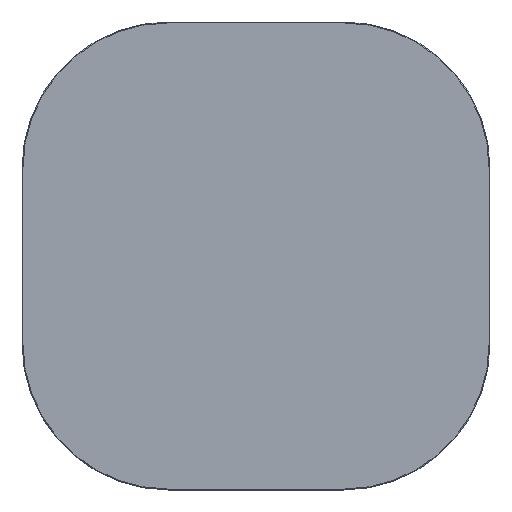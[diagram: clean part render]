
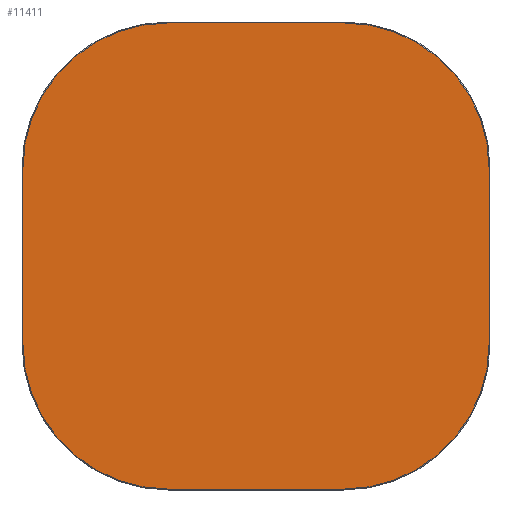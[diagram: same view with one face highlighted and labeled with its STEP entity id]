
A CAD part, top view. The second image highlights one B-rep face of the part: STEP entity #11411.
In plain terms, the highlighted planar face has unit normal (0, 0, 1).
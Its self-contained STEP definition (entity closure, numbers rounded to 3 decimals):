
#11336=CARTESIAN_POINT('',(0.,0.,20.));
#11337=DIRECTION('',(1.,0.,0.));
#11338=DIRECTION('',(0.,0.,1.));
#11339=AXIS2_PLACEMENT_3D('',#11336,#11338,#11337);
#11340=PLANE('',#11339);
#11341=CARTESIAN_POINT('',(-150.,-398.5,20.));
#11342=VERTEX_POINT('',#11341);
#11343=CARTESIAN_POINT('',(150.,-398.5,20.));
#11344=VERTEX_POINT('',#11343);
#11345=CARTESIAN_POINT('',(-150.,-398.5,20.));
#11346=DIRECTION('',(1.,0.,0.));
#11347=VECTOR('',#11346,300.);
#11348=LINE('',#11345,#11347);
#11349=EDGE_CURVE('',#11342,#11344,#11348,.T.);
#11350=ORIENTED_EDGE('E105',*,*,#11349,.T.);
#11351=CARTESIAN_POINT('',(398.5,-150.,20.));
#11352=VERTEX_POINT('',#11351);
#11353=CARTESIAN_POINT('',(150.,-150.,20.));
#11354=DIRECTION('',(0.,-1.,0.));
#11355=DIRECTION('',(0.,0.,1.));
#11356=AXIS2_PLACEMENT_3D('',#11353,#11355,#11354);
#11357=CIRCLE('',#11356,248.5);
#11358=EDGE_CURVE('',#11344,#11352,#11357,.T.);
#11359=ORIENTED_EDGE('E107',*,*,#11358,.T.);
#11360=CARTESIAN_POINT('',(398.5,150.,20.));
#11361=VERTEX_POINT('',#11360);
#11362=CARTESIAN_POINT('',(398.5,-150.,20.));
#11363=DIRECTION('',(0.,1.,0.));
#11364=VECTOR('',#11363,300.);
#11365=LINE('',#11362,#11364);
#11366=EDGE_CURVE('',#11352,#11361,#11365,.T.);
#11367=ORIENTED_EDGE('E109',*,*,#11366,.T.);
#11368=CARTESIAN_POINT('',(150.,398.5,20.));
#11369=VERTEX_POINT('',#11368);
#11370=CARTESIAN_POINT('',(150.,150.,20.));
#11371=DIRECTION('',(1.,0.,0.));
#11372=DIRECTION('',(0.,0.,1.));
#11373=AXIS2_PLACEMENT_3D('',#11370,#11372,#11371);
#11374=CIRCLE('',#11373,248.5);
#11375=EDGE_CURVE('',#11361,#11369,#11374,.T.);
#11376=ORIENTED_EDGE('E111',*,*,#11375,.T.);
#11377=CARTESIAN_POINT('',(-150.,398.5,20.));
#11378=VERTEX_POINT('',#11377);
#11379=CARTESIAN_POINT('',(150.,398.5,20.));
#11380=DIRECTION('',(-1.,0.,0.));
#11381=VECTOR('',#11380,300.);
#11382=LINE('',#11379,#11381);
#11383=EDGE_CURVE('',#11369,#11378,#11382,.T.);
#11384=ORIENTED_EDGE('E113',*,*,#11383,.T.);
#11385=CARTESIAN_POINT('',(-398.5,150.,20.));
#11386=VERTEX_POINT('',#11385);
#11387=CARTESIAN_POINT('',(-150.,150.,20.));
#11388=DIRECTION('',(0.,1.,0.));
#11389=DIRECTION('',(0.,0.,1.));
#11390=AXIS2_PLACEMENT_3D('',#11387,#11389,#11388);
#11391=CIRCLE('',#11390,248.5);
#11392=EDGE_CURVE('',#11378,#11386,#11391,.T.);
#11393=ORIENTED_EDGE('E115',*,*,#11392,.T.);
#11394=CARTESIAN_POINT('',(-398.5,-150.,20.));
#11395=VERTEX_POINT('',#11394);
#11396=CARTESIAN_POINT('',(-398.5,150.,20.));
#11397=DIRECTION('',(0.,-1.,0.));
#11398=VECTOR('',#11397,300.);
#11399=LINE('',#11396,#11398);
#11400=EDGE_CURVE('',#11386,#11395,#11399,.T.);
#11401=ORIENTED_EDGE('E117',*,*,#11400,.T.);
#11402=CARTESIAN_POINT('',(-150.,-150.,20.));
#11403=DIRECTION('',(-1.,0.,0.));
#11404=DIRECTION('',(-0.,0.,1.));
#11405=AXIS2_PLACEMENT_3D('',#11402,#11404,#11403);
#11406=CIRCLE('',#11405,248.5);
#11407=EDGE_CURVE('',#11395,#11342,#11406,.T.);
#11408=ORIENTED_EDGE('E119',*,*,#11407,.T.);
#11409=EDGE_LOOP('',(#11350,#11359,#11367,#11376,#11384,#11393,#11401,#11408));
#11410=FACE_OUTER_BOUND('',#11409,.T.);
#11411=ADVANCED_FACE('F2',(#11410),#11340,.T.);
